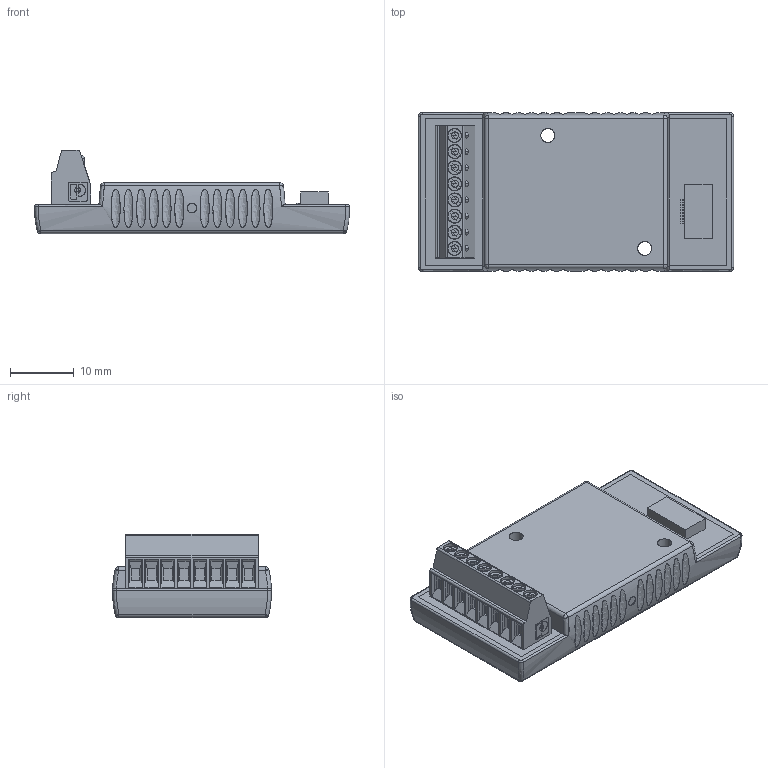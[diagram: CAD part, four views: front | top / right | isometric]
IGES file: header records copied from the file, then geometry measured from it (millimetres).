
Global section: file name: D:\Daten-Huge\PLM_Export\Huellen_aufbr\20120404_fuer_Vertrieb\MC3002F.igs; native system: NX V7.5; preprocessor: SIEMENS PLM Software NX 7.5; author: DR. FRITZ FAULHABER GmbH & Co. KG; organization: DR. FRITZ FAULHABER GmbH & Co. KG; date: 20120404.105246; units: millimetre
Bounding box: 49.59 x 25 x 13.1 mm (x, y, z)
Surface area: 4230.7 mm2 (no closed solid volume)
Topology: 0 solids, 0 shells, 517 faces, 2984 edges, 2963 vertices
Faces by surface type: bspline 517
